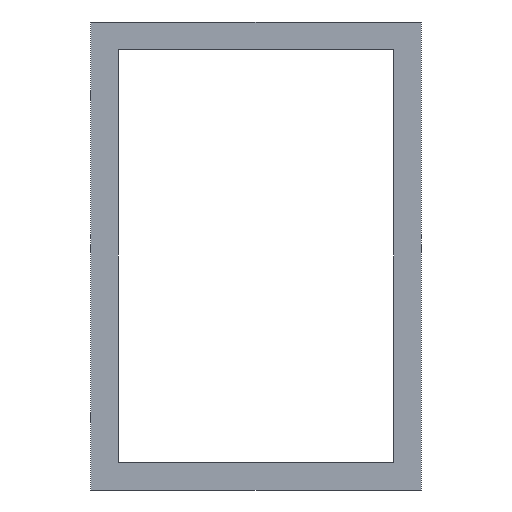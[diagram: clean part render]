
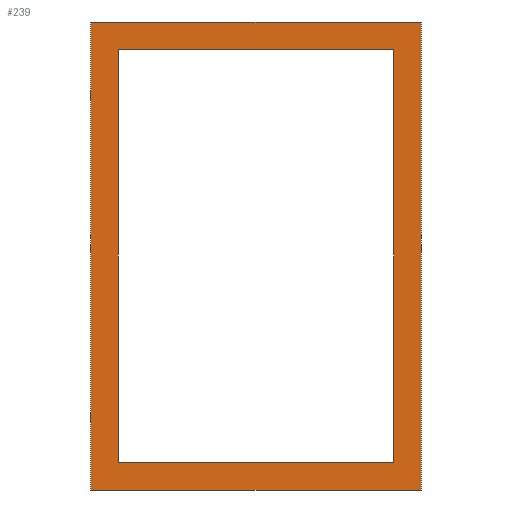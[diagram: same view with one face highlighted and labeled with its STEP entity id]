
A CAD part, left-side view. The second image highlights one B-rep face of the part: STEP entity #239.
In plain terms, the highlighted planar face has unit normal (-1, 0, 0).
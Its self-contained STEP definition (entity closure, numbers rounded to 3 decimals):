
#19=FACE_BOUND('',#58,.T.);
#29=PLANE('',#269);
#41=FACE_OUTER_BOUND('',#57,.T.);
#57=EDGE_LOOP('',(#211,#212,#213,#214));
#58=EDGE_LOOP('',(#215,#216,#217,#218));
#63=LINE('',#347,#89);
#67=LINE('',#355,#93);
#70=LINE('',#361,#96);
#73=LINE('',#366,#99);
#75=LINE('',#371,#101);
#79=LINE('',#379,#105);
#82=LINE('',#385,#108);
#85=LINE('',#390,#111);
#89=VECTOR('',#289,10.);
#93=VECTOR('',#295,10.);
#96=VECTOR('',#300,10.);
#99=VECTOR('',#305,10.);
#101=VECTOR('',#309,10.);
#105=VECTOR('',#315,10.);
#108=VECTOR('',#320,10.);
#111=VECTOR('',#325,10.);
#121=VERTEX_POINT('',#345);
#122=VERTEX_POINT('',#346);
#125=VERTEX_POINT('',#354);
#127=VERTEX_POINT('',#360);
#129=VERTEX_POINT('',#369);
#130=VERTEX_POINT('',#370);
#133=VERTEX_POINT('',#378);
#135=VERTEX_POINT('',#384);
#143=EDGE_CURVE('',#121,#122,#63,.T.);
#147=EDGE_CURVE('',#125,#121,#67,.T.);
#150=EDGE_CURVE('',#125,#127,#70,.T.);
#153=EDGE_CURVE('',#122,#127,#73,.T.);
#155=EDGE_CURVE('',#129,#130,#75,.T.);
#159=EDGE_CURVE('',#133,#129,#79,.T.);
#162=EDGE_CURVE('',#133,#135,#82,.T.);
#165=EDGE_CURVE('',#130,#135,#85,.T.);
#211=ORIENTED_EDGE('',*,*,#153,.F.);
#212=ORIENTED_EDGE('',*,*,#143,.F.);
#213=ORIENTED_EDGE('',*,*,#147,.F.);
#214=ORIENTED_EDGE('',*,*,#150,.T.);
#215=ORIENTED_EDGE('',*,*,#162,.F.);
#216=ORIENTED_EDGE('',*,*,#159,.T.);
#217=ORIENTED_EDGE('',*,*,#155,.T.);
#218=ORIENTED_EDGE('',*,*,#165,.T.);
#239=ADVANCED_FACE('',(#41,#19),#29,.F.);
#269=AXIS2_PLACEMENT_3D('',#392,#327,#328);
#289=DIRECTION('',(0.,0.,-1.));
#295=DIRECTION('',(0.,-1.,0.));
#300=DIRECTION('',(0.,0.,-1.));
#305=DIRECTION('',(0.,1.,0.));
#309=DIRECTION('',(0.,0.,-1.));
#315=DIRECTION('',(0.,-1.,0.));
#320=DIRECTION('',(0.,0.,-1.));
#325=DIRECTION('',(0.,1.,0.));
#327=DIRECTION('center_axis',(1.,0.,0.));
#328=DIRECTION('ref_axis',(0.,0.,-1.));
#345=CARTESIAN_POINT('',(0.,-6.,51.));
#346=CARTESIAN_POINT('',(0.,-6.,-51.));
#347=CARTESIAN_POINT('',(0.,-6.,45.));
#354=CARTESIAN_POINT('',(0.,66.,51.));
#355=CARTESIAN_POINT('',(0.,60.,51.));
#360=CARTESIAN_POINT('',(0.,66.,-51.));
#361=CARTESIAN_POINT('',(0.,66.,45.));
#366=CARTESIAN_POINT('',(0.,0.,-51.));
#369=CARTESIAN_POINT('',(0.,0.,45.));
#370=CARTESIAN_POINT('',(0.,0.,-45.));
#371=CARTESIAN_POINT('',(0.,0.,45.));
#378=CARTESIAN_POINT('',(0.,60.,45.));
#379=CARTESIAN_POINT('',(0.,60.,45.));
#384=CARTESIAN_POINT('',(0.,60.,-45.));
#385=CARTESIAN_POINT('',(0.,60.,45.));
#390=CARTESIAN_POINT('',(0.,0.,-45.));
#392=CARTESIAN_POINT('Origin',(0.,0.,0.));
